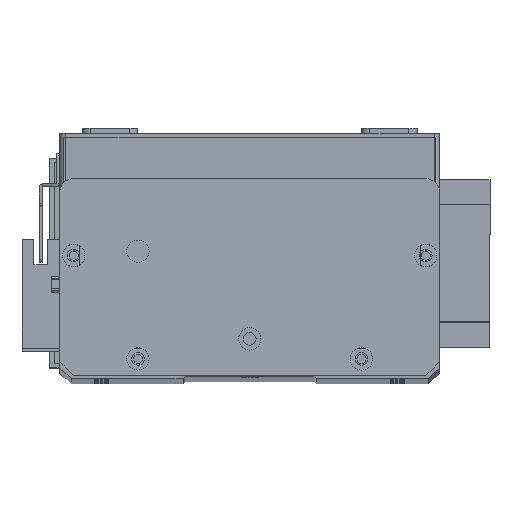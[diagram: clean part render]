
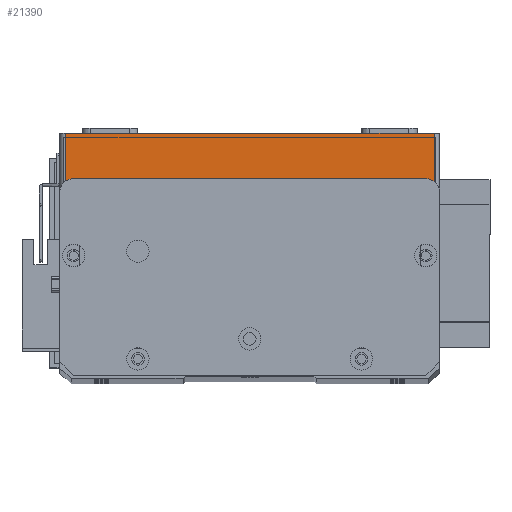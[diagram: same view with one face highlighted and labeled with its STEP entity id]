
A CAD part, top view. The second image highlights one B-rep face of the part: STEP entity #21390.
In plain terms, the highlighted planar face has unit normal (0, 0, 1) as drawn and (0, -1, 0) by its records, which use the part's own axes.
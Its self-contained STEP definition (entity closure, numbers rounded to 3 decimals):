
#522 = ORIENTED_EDGE ( 'NONE', *, *, #13422, .T. ) ;
#536 = EDGE_CURVE ( 'NONE', #8240, #6299, #28763, .T. ) ;
#1806 = DIRECTION ( 'NONE',  ( 0., 1., 0. ) ) ;
#1820 = DIRECTION ( 'NONE',  ( 0., 0., 1. ) ) ;
#2100 = EDGE_CURVE ( 'NONE', #6299, #7428, #24428, .T. ) ;
#2691 = CARTESIAN_POINT ( 'NONE',  ( 2., 0., 19.5 ) ) ;
#4756 = CARTESIAN_POINT ( 'NONE',  ( 0., 0., 19.5 ) ) ;
#5230 = FACE_OUTER_BOUND ( 'NONE', #17479, .T. ) ;
#6299 = VERTEX_POINT ( 'NONE', #23608 ) ;
#6313 = VECTOR ( 'NONE', #25097, 1000. ) ;
#6889 = CARTESIAN_POINT ( 'NONE',  ( 0., 0., 0. ) ) ;
#7428 = VERTEX_POINT ( 'NONE', #7816 ) ;
#7816 = CARTESIAN_POINT ( 'NONE',  ( 134., 0., 19.5 ) ) ;
#8240 = VERTEX_POINT ( 'NONE', #23969 ) ;
#10717 = CARTESIAN_POINT ( 'NONE',  ( 134., 0., 19.5 ) ) ;
#13005 = LINE ( 'NONE', #4756, #6313 ) ;
#13110 = VECTOR ( 'NONE', #23654, 1000. ) ;
#13422 = EDGE_CURVE ( 'NONE', #21032, #8240, #19151, .T. ) ;
#13727 = ORIENTED_EDGE ( 'NONE', *, *, #2100, .T. ) ;
#15276 = EDGE_CURVE ( 'NONE', #21032, #7428, #13005, .T. ) ;
#15971 = AXIS2_PLACEMENT_3D ( 'NONE', #28788, #1806, #17526 ) ;
#17479 = EDGE_LOOP ( 'NONE', ( #27810, #522, #27123, #13727 ) ) ;
#17526 = DIRECTION ( 'NONE',  ( 0., 0., 1. ) ) ;
#18423 = VECTOR ( 'NONE', #1820, 1000. ) ;
#19151 = LINE ( 'NONE', #21367, #13110 ) ;
#21032 = VERTEX_POINT ( 'NONE', #2691 ) ;
#21367 = CARTESIAN_POINT ( 'NONE',  ( 2., 0., 19.5 ) ) ;
#21390 = ADVANCED_FACE ( 'NONE', ( #5230 ), #26533, .F. ) ;
#22746 = VECTOR ( 'NONE', #24976, 1000. ) ;
#23608 = CARTESIAN_POINT ( 'NONE',  ( 134., 0., 0. ) ) ;
#23654 = DIRECTION ( 'NONE',  ( 0., 0., -1. ) ) ;
#23969 = CARTESIAN_POINT ( 'NONE',  ( 2., 0., 0. ) ) ;
#24428 = LINE ( 'NONE', #10717, #18423 ) ;
#24976 = DIRECTION ( 'NONE',  ( 1., 0., 0. ) ) ;
#25097 = DIRECTION ( 'NONE',  ( 1., 0., 0. ) ) ;
#26533 = PLANE ( 'NONE',  #15971 ) ;
#27123 = ORIENTED_EDGE ( 'NONE', *, *, #536, .T. ) ;
#27810 = ORIENTED_EDGE ( 'NONE', *, *, #15276, .F. ) ;
#28763 = LINE ( 'NONE', #6889, #22746 ) ;
#28788 = CARTESIAN_POINT ( 'NONE',  ( 0., 0., 19.5 ) ) ;
